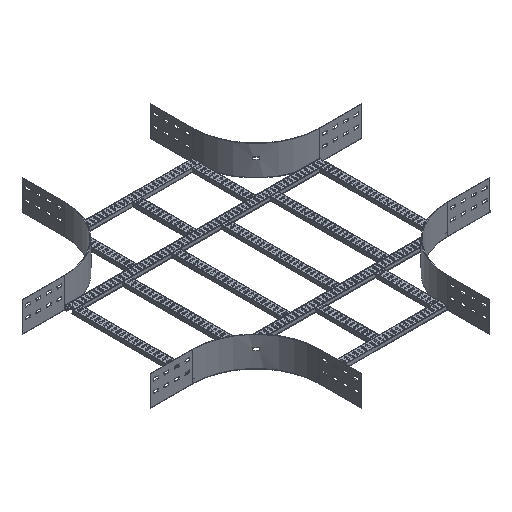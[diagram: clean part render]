
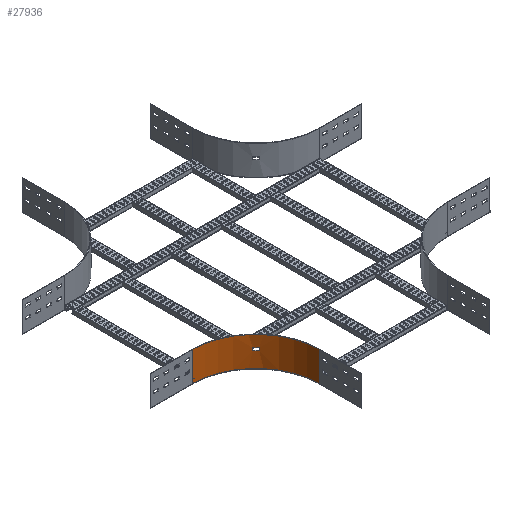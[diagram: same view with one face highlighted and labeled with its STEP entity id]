
A CAD part, isometric view. The second image highlights one B-rep face of the part: STEP entity #27936.
In plain terms, the highlighted cylindrical face has radius 300 mm (diameter 600 mm), a partial arc.
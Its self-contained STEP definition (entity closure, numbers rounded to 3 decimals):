
#716=FACE_BOUND('',#4062,.T.);
#1310=CYLINDRICAL_SURFACE('',#29389,300.);
#1367=CIRCLE('',#29381,300.);
#1372=CIRCLE('',#29388,300.);
#1373=CIRCLE('',#29390,300.);
#1374=CIRCLE('',#29391,300.);
#2638=FACE_OUTER_BOUND('',#4061,.T.);
#4061=EDGE_LOOP('',(#18869,#18870,#18871,#18872));
#4062=EDGE_LOOP('',(#18873,#18874,#18875,#18876));
#6076=LINE('',#38741,#8976);
#6078=LINE('',#38747,#8978);
#6083=LINE('',#38771,#8983);
#6084=LINE('',#38774,#8984);
#8976=VECTOR('',#31561,304.8);
#8978=VECTOR('',#31565,304.8);
#8983=VECTOR('',#31592,304.8);
#8984=VECTOR('',#31595,304.8);
#11873=VERTEX_POINT('',#38734);
#11876=VERTEX_POINT('',#38739);
#11878=VERTEX_POINT('',#38744);
#11879=VERTEX_POINT('',#38746);
#11885=VERTEX_POINT('',#38767);
#11886=VERTEX_POINT('',#38768);
#11887=VERTEX_POINT('',#38770);
#11888=VERTEX_POINT('',#38772);
#14660=EDGE_CURVE('',#11876,#11873,#6076,.T.);
#14662=EDGE_CURVE('',#11878,#11879,#6078,.T.);
#14665=EDGE_CURVE('',#11873,#11878,#1367,.T.);
#14672=EDGE_CURVE('',#11879,#11876,#1372,.T.);
#14673=EDGE_CURVE('',#11885,#11886,#1373,.T.);
#14674=EDGE_CURVE('',#11886,#11887,#6083,.T.);
#14675=EDGE_CURVE('',#11887,#11888,#1374,.T.);
#14676=EDGE_CURVE('',#11888,#11885,#6084,.T.);
#18869=ORIENTED_EDGE('',*,*,#14660,.F.);
#18870=ORIENTED_EDGE('',*,*,#14672,.F.);
#18871=ORIENTED_EDGE('',*,*,#14662,.F.);
#18872=ORIENTED_EDGE('',*,*,#14665,.F.);
#18873=ORIENTED_EDGE('',*,*,#14673,.T.);
#18874=ORIENTED_EDGE('',*,*,#14674,.T.);
#18875=ORIENTED_EDGE('',*,*,#14675,.T.);
#18876=ORIENTED_EDGE('',*,*,#14676,.T.);
#27936=ADVANCED_FACE('',(#2638,#716),#1310,.F.);
#29381=AXIS2_PLACEMENT_3D('',#38752,#31570,#31571);
#29388=AXIS2_PLACEMENT_3D('',#38765,#31586,#31587);
#29389=AXIS2_PLACEMENT_3D('',#38766,#31588,#31589);
#29390=AXIS2_PLACEMENT_3D('',#38769,#31590,#31591);
#29391=AXIS2_PLACEMENT_3D('',#38773,#31593,#31594);
#31561=DIRECTION('',(0.,0.,1.));
#31565=DIRECTION('',(0.,0.,-1.));
#31570=DIRECTION('center_axis',(0.,0.,-1.));
#31571=DIRECTION('ref_axis',(0.,1.,0.));
#31586=DIRECTION('center_axis',(0.,0.,1.));
#31587=DIRECTION('ref_axis',(0.,1.,0.));
#31588=DIRECTION('center_axis',(0.,0.,-1.));
#31589=DIRECTION('ref_axis',(0.,1.,0.));
#31590=DIRECTION('center_axis',(0.,0.,-1.));
#31591=DIRECTION('ref_axis',(0.,1.,0.));
#31592=DIRECTION('',(0.,0.,-1.));
#31593=DIRECTION('center_axis',(0.,0.,1.));
#31594=DIRECTION('ref_axis',(0.,1.,0.));
#31595=DIRECTION('',(0.,0.,1.));
#38734=CARTESIAN_POINT('',(-605.5,-305.5,71.));
#38739=CARTESIAN_POINT('',(-605.5,-305.5,-71.));
#38741=CARTESIAN_POINT('',(-605.5,-305.5,-71.));
#38744=CARTESIAN_POINT('',(-305.5,-605.5,71.));
#38746=CARTESIAN_POINT('',(-305.5,-605.5,-71.));
#38747=CARTESIAN_POINT('',(-305.5,-605.5,71.));
#38752=CARTESIAN_POINT('Origin',(-605.5,-605.5,71.));
#38765=CARTESIAN_POINT('Origin',(-605.5,-605.5,-71.));
#38766=CARTESIAN_POINT('Origin',(-605.5,-605.5,0.));
#38767=CARTESIAN_POINT('',(-401.26,-385.759,15.5));
#38768=CARTESIAN_POINT('',(-385.706,-401.318,15.5));
#38769=CARTESIAN_POINT('Origin',(-605.5,-605.5,15.5));
#38770=CARTESIAN_POINT('',(-385.706,-401.318,4.5));
#38771=CARTESIAN_POINT('',(-385.706,-401.318,15.5));
#38772=CARTESIAN_POINT('',(-401.26,-385.759,4.5));
#38773=CARTESIAN_POINT('Origin',(-605.5,-605.5,4.5));
#38774=CARTESIAN_POINT('',(-401.26,-385.759,4.5));
